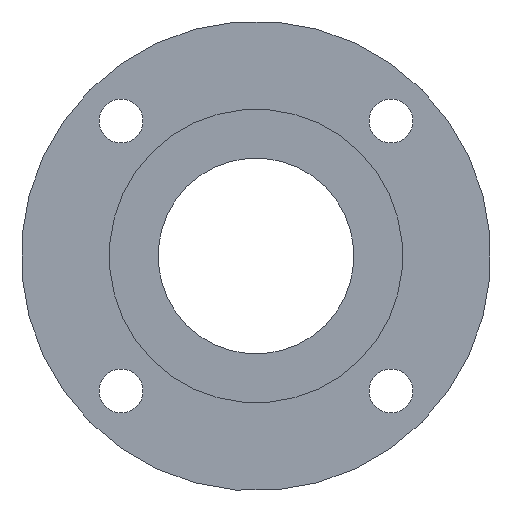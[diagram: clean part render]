
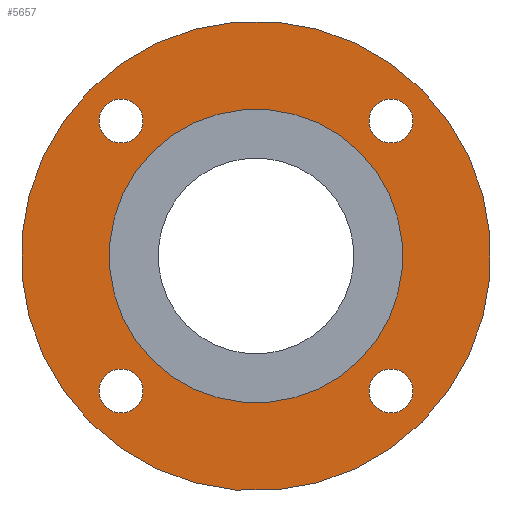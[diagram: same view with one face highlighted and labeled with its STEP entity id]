
A CAD part, left-side view. The second image highlights one B-rep face of the part: STEP entity #5657.
In plain terms, the highlighted planar face has unit normal (-1, 0, 0).
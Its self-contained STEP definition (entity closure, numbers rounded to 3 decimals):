
#107=CIRCLE('',#6016,30.);
#109=CIRCLE('',#6021,4.5);
#110=CIRCLE('',#6022,4.5);
#111=CIRCLE('',#6023,4.5);
#112=CIRCLE('',#6024,4.5);
#113=CIRCLE('',#6025,48.);
#1730=ORIENTED_EDGE('',*,*,#3355,.T.);
#1731=ORIENTED_EDGE('',*,*,#3356,.T.);
#1732=ORIENTED_EDGE('',*,*,#3357,.T.);
#1733=ORIENTED_EDGE('',*,*,#3358,.T.);
#1734=ORIENTED_EDGE('',*,*,#3359,.F.);
#1735=ORIENTED_EDGE('',*,*,#3353,.T.);
#3353=EDGE_CURVE('',#4167,#4167,#107,.T.);
#3355=EDGE_CURVE('',#4169,#4169,#109,.T.);
#3356=EDGE_CURVE('',#4170,#4170,#110,.T.);
#3357=EDGE_CURVE('',#4171,#4171,#111,.T.);
#3358=EDGE_CURVE('',#4172,#4172,#112,.T.);
#3359=EDGE_CURVE('',#4173,#4173,#113,.T.);
#4167=VERTEX_POINT('',#8909);
#4169=VERTEX_POINT('',#8916);
#4170=VERTEX_POINT('',#8918);
#4171=VERTEX_POINT('',#8920);
#4172=VERTEX_POINT('',#8922);
#4173=VERTEX_POINT('',#8924);
#4630=EDGE_LOOP('',(#1730));
#4631=EDGE_LOOP('',(#1731));
#4632=EDGE_LOOP('',(#1732));
#4633=EDGE_LOOP('',(#1733));
#4634=EDGE_LOOP('',(#1734));
#4635=EDGE_LOOP('',(#1735));
#5038=FACE_BOUND('',#4630,.T.);
#5039=FACE_BOUND('',#4631,.T.);
#5040=FACE_BOUND('',#4632,.T.);
#5041=FACE_BOUND('',#4633,.T.);
#5042=FACE_BOUND('',#4634,.T.);
#5043=FACE_BOUND('',#4635,.T.);
#5394=PLANE('',#6020);
#5657=ADVANCED_FACE('',(#5038,#5039,#5040,#5041,#5042,#5043),#5394,.F.);
#6016=AXIS2_PLACEMENT_3D('',#8908,#6539,#6540);
#6020=AXIS2_PLACEMENT_3D('',#8914,#6547,#6548);
#6021=AXIS2_PLACEMENT_3D('',#8915,#6549,#6550);
#6022=AXIS2_PLACEMENT_3D('',#8917,#6551,#6552);
#6023=AXIS2_PLACEMENT_3D('',#8919,#6553,#6554);
#6024=AXIS2_PLACEMENT_3D('',#8921,#6555,#6556);
#6025=AXIS2_PLACEMENT_3D('',#8923,#6557,#6558);
#6539=DIRECTION('',(1.,0.,0.));
#6540=DIRECTION('',(0.,0.707,-0.707));
#6547=DIRECTION('',(1.,0.,0.));
#6548=DIRECTION('',(0.,0.707,-0.707));
#6549=DIRECTION('',(1.,0.,0.));
#6550=DIRECTION('',(0.,0.707,-0.707));
#6551=DIRECTION('',(1.,0.,0.));
#6552=DIRECTION('',(0.,0.707,-0.707));
#6553=DIRECTION('',(1.,0.,0.));
#6554=DIRECTION('',(0.,0.707,-0.707));
#6555=DIRECTION('',(1.,0.,0.));
#6556=DIRECTION('',(0.,0.707,-0.707));
#6557=DIRECTION('',(1.,0.,0.));
#6558=DIRECTION('',(0.,0.707,-0.707));
#8908=CARTESIAN_POINT('',(62.5,0.,0.));
#8909=CARTESIAN_POINT('',(62.5,21.213,-21.213));
#8914=CARTESIAN_POINT('',(62.5,0.,0.));
#8915=CARTESIAN_POINT('',(62.5,27.577,-27.577));
#8916=CARTESIAN_POINT('',(62.5,30.759,-30.759));
#8917=CARTESIAN_POINT('',(62.5,-27.577,-27.577));
#8918=CARTESIAN_POINT('',(62.5,-24.395,-30.759));
#8919=CARTESIAN_POINT('',(62.5,-27.577,27.577));
#8920=CARTESIAN_POINT('',(62.5,-24.395,24.395));
#8921=CARTESIAN_POINT('',(62.5,27.577,27.577));
#8922=CARTESIAN_POINT('',(62.5,30.759,24.395));
#8923=CARTESIAN_POINT('',(62.5,0.,0.));
#8924=CARTESIAN_POINT('',(62.5,33.941,-33.941));
